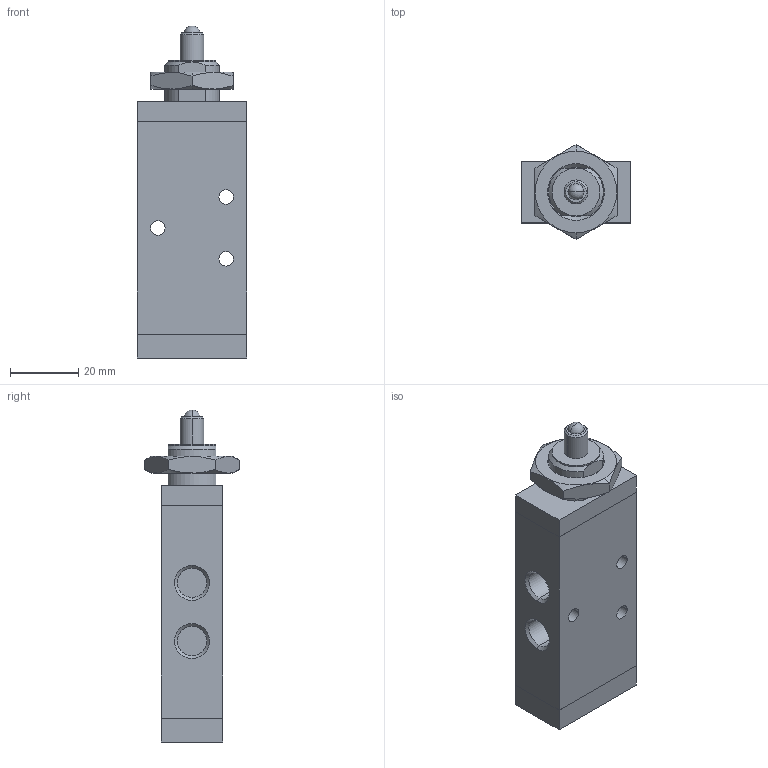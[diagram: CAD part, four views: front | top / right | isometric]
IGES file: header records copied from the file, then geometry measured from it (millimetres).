
Global section: file name: No Iges File Name specified; native system: AutoDesk Inventor R11.0; preprocessor: AutoDesk Inventor Iges Exporter R11.0; author: No Author specified; organization: No Organization specified; date: 20061219.114101; units: millimetre
Bounding box: 32 x 27.71 x 97 mm (x, y, z)
Volume: 44151 mm3; surface area: 12299.5 mm2
Topology: 2 solids, 2 shells, 81 faces, 182 edges, 113 vertices
Faces by surface type: bspline 31, plane 28, revolution 8, cone 6, cylinder 6, sphere 2
